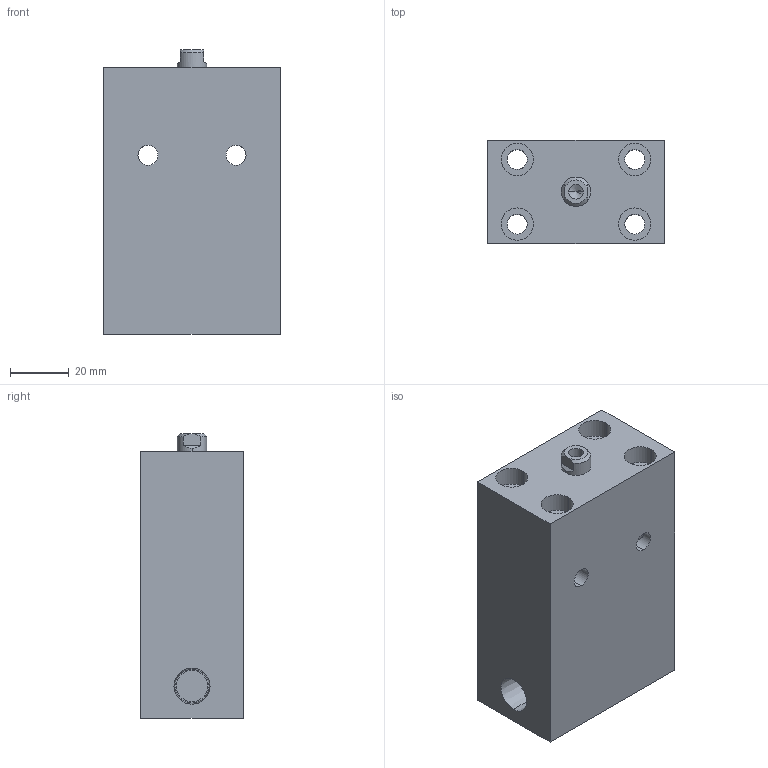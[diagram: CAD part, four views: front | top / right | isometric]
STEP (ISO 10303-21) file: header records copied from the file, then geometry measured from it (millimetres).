
FILE_DESCRIPTION (( 'STEP AP203' ), '1' );
FILE_NAME ('HBC-16S-20N.STEP', '2019-11-29T08:52:52', ( '微软用户' ), ( '微软中国' ), 'SwSTEP 2.0', 'SolidWorks 2012', '' );
FILE_SCHEMA (( 'CONFIG_CONTROL_DESIGN' ));
Length unit declared in the file: millimetre
Products named in the file (3): HBC-16S-20N掛极; HBC-16S-20N活塞杆; HBC-16S-20N
Assembly tree (2 placements, depth 2):
  HBC-16S-20N
    HBC-16S-20N掛极
    HBC-16S-20N活塞杆
Bounding box: 60 x 35 x 97 mm (x, y, z)
Volume: 172515.4 mm3; surface area: 32374.8 mm2
Topology: 2 solids, 2 shells, 53 faces, 134 edges, 87 vertices
Faces by surface type: cylinder 28, plane 19, cone 6
Entity records: 2225 total; most frequent: CARTESIAN_POINT 589, DIRECTION 294, ORIENTED_EDGE 264, EDGE_CURVE 132, AXIS2_PLACEMENT_3D 120, VERTEX_POINT 87, EDGE_LOOP 77, CIRCLE 62
